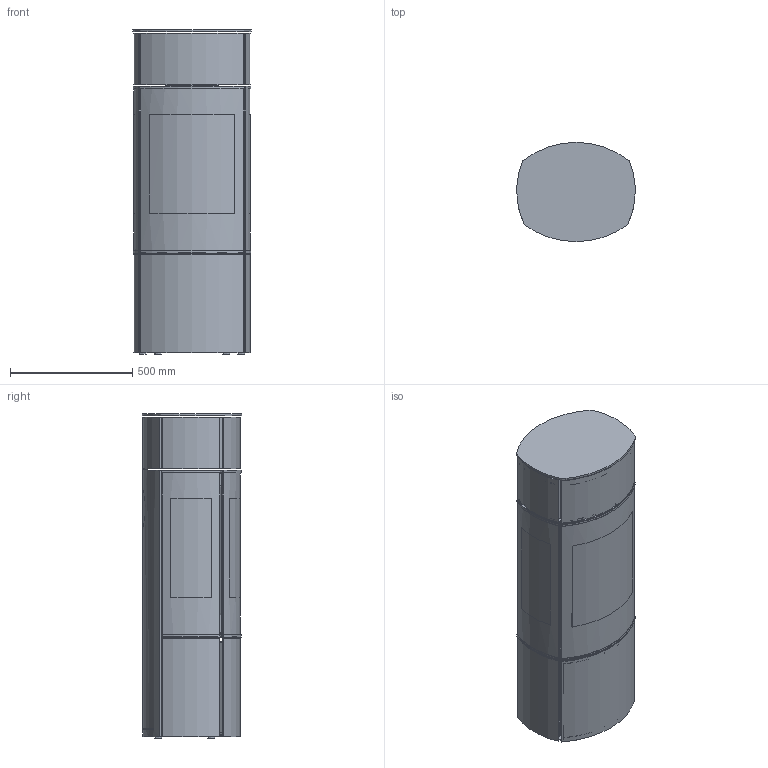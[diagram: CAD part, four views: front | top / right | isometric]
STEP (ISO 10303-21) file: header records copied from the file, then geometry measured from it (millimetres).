
FILE_DESCRIPTION(/* description */ (''),/* implementation_level */ '2;1');
FILE_NAME(/* name */ '14-0513 Caro 130 Gas Sideglas.stp',/* time_stamp */ '2023-11-07T13:31:35+01:00',/* author */ ('ksj'),/* organization */ (''),/* preprocessor_version */ 'ST-DEVELOPER v19.2',/* originating_system */ 'Autodesk Inventor 2023',/* authorisation */ '');
FILE_SCHEMA (('AUTOMOTIVE_DESIGN { 1 0 10303 214 3 1 1 }'));
Products named in the file (1): 14-0513 Caro 130 Gas Sideglas
Bounding box: 484.89 x 407 x 1329 mm (x, y, z)
Volume: 16311818.9 mm3; surface area: 8976297.1 mm2
Topology: 69 solids, 69 shells, 4247 faces, 11436 edges, 7309 vertices
Faces by surface type: plane 2696, cylinder 1512, bspline 29, torus 8, sphere 2
Full cylindrical faces by diameter (mm): 10 x4, 16.1 x2, 25 x4, 110 x2, 200 x1
Entity records: 139594 total; most frequent: CARTESIAN_POINT 25896, DIRECTION 22910, ORIENTED_EDGE 22868, EDGE_CURVE 11434, LINE 7920, VECTOR 7920, AXIS2_PLACEMENT_3D 7495, VERTEX_POINT 7305
